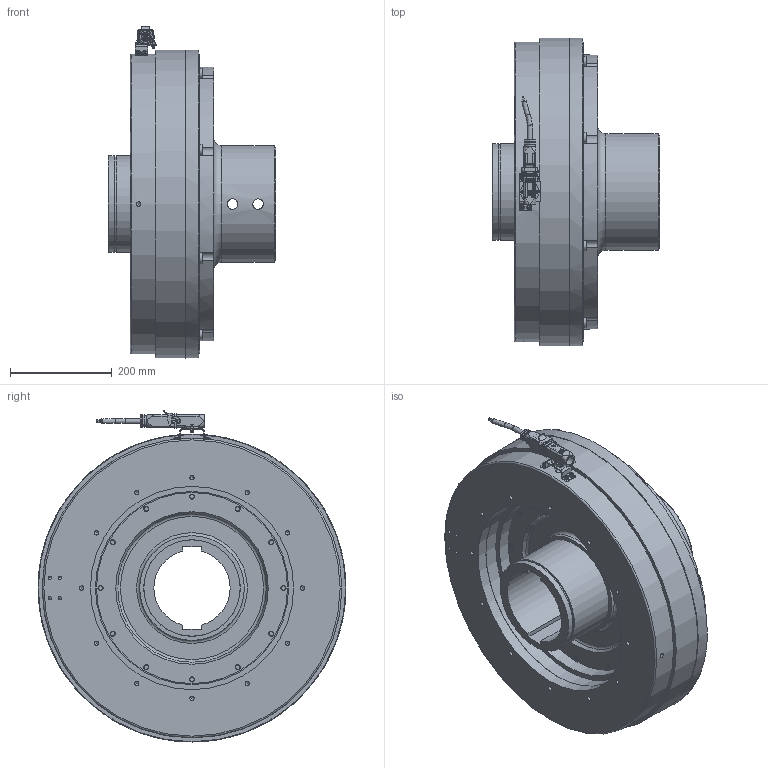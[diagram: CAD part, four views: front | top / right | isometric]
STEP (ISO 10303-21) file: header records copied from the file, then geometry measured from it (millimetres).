
FILE_DESCRIPTION(/* description */ (''),/* implementation_level */ '2;1');
FILE_NAME(/* name */ 'X:\INVENTOR\DISEGNI\08_Freni_Friz_Elettmag_Monodisco\08_26 EMSL_DF\EMSL_DF STEP\08_26_600_22 EMSL600_DF-BM-ME_S@STEP.stp',/* time_stamp */ '2018-04-24T09:10:40+02:00',/* author */ ('stefano'),/* organization */ (''),/* preprocessor_version */ 'ST-DEVELOPER v17',/* originating_system */ 'Autodesk Inventor 2018',/* authorisation */ '');
FILE_SCHEMA (('AUTOMOTIVE_DESIGN { 1 0 10303 214 3 1 1 }'));
Length unit declared in the file: millimetre
Products named in the file (1): 08_26_600_22 EMSL600_DF-BM-ME - Spina_Substitute_1
Bounding box: 330 x 606 x 653.32 mm (x, y, z)
Volume: 30101978.1 mm3; surface area: 2797458 mm2
Topology: 4 solids, 4 shells, 2013 faces, 5770 edges, 3869 vertices
Faces by surface type: plane 1190, cylinder 602, cone 152, torus 45, bspline 21, sphere 3
Full cylindrical faces by diameter (mm): 0.35 x1, 0.491 x1, 0.753 x1, 0.95 x1, 0.986 x1, 1.05 x1, 2.5 x2, 3 x4, 3.2 x1, 3.25 x2, 3.59 x3, 4 x3, 4.675 x2, 4.8 x2, 5 x20, 5.25 x4, 5.5 x2, 6 x6, 6.2 x1, 6.647 x4, 7 x1, 7.9 x2, 8.2 x2, 8.376 x14, 8.5 x4, 9.5 x2, 10 x12, 12 x1, 13.5 x2, 13.835 x8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
Entity records: 69967 total; most frequent: CARTESIAN_POINT 13566, DIRECTION 11539, ORIENTED_EDGE 11448, EDGE_CURVE 5724, AXIS2_PLACEMENT_3D 4140, VERTEX_POINT 3869, LINE 3259, VECTOR 3259
